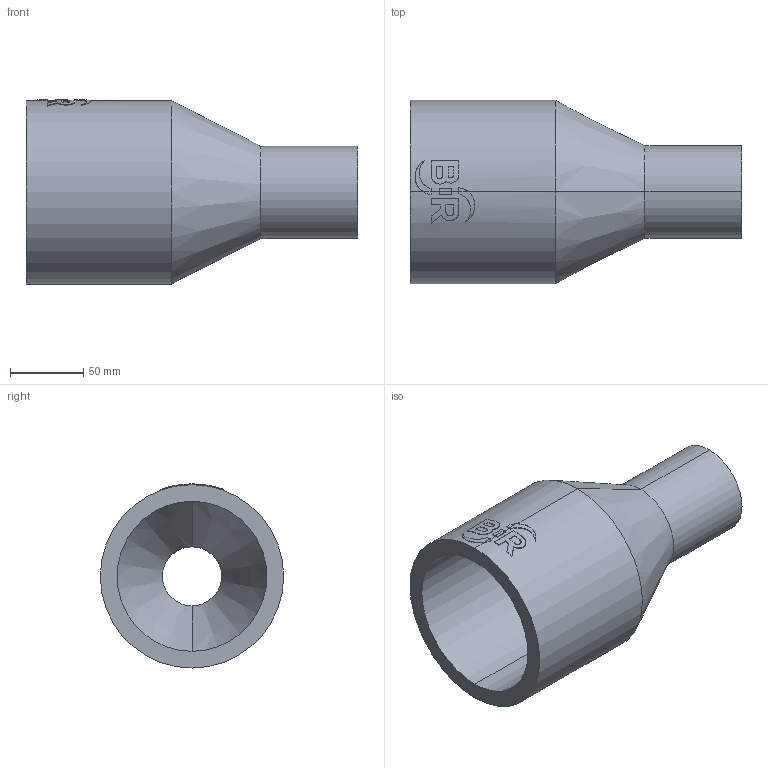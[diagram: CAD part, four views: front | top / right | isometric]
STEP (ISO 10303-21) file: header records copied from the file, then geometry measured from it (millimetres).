
FILE_DESCRIPTION (( 'STEP AP214' ), '1' );
FILE_NAME ('2323151115.STEP', '2018-07-20T11:18:11', ( '' ), ( '' ), 'SwSTEP 2.0', 'SolidWorks 2017', '' );
FILE_SCHEMA (( 'AUTOMOTIVE_DESIGN' ));
Length unit declared in the file: millimetre
Products named in the file (1): 2323151115
Bounding box: 226 x 125 x 125.46 mm (x, y, z)
Volume: 724422.9 mm3; surface area: 133128 mm2
Topology: 1 solids, 1 shells, 63 faces, 160 edges, 104 vertices
Faces by surface type: cylinder 31, plane 28, cone 4
Entity records: 3201 total; most frequent: CARTESIAN_POINT 992, ORIENTED_EDGE 320, DIRECTION 296, EDGE_CURVE 160, AXIS2_PLACEMENT_3D 112, VERTEX_POINT 104, LINE 72, VECTOR 72
